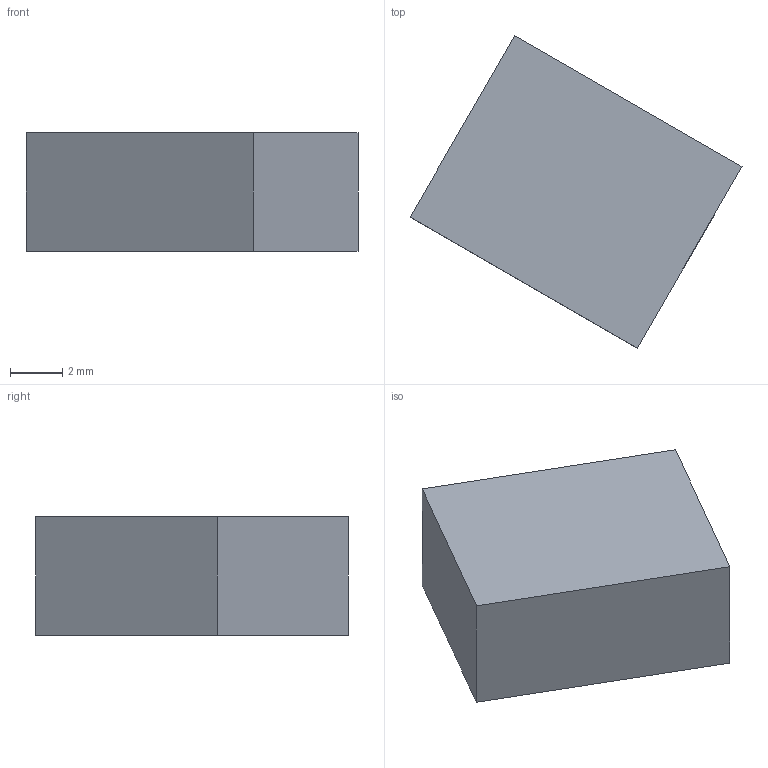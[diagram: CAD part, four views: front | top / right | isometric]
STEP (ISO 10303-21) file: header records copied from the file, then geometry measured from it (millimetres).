
FILE_DESCRIPTION(('Open CASCADE Model'),'2;1');
FILE_NAME('Open CASCADE Shape Model','2026-10-04T02:31:40',('Author'),( 'Open CASCADE'),'Open CASCADE STEP processor 8.0','Open CASCADE 8.0' ,'Unknown');
FILE_SCHEMA(('AUTOMOTIVE_DESIGN { 1 0 10303 214 1 1 1 1 }'));
Length unit declared in the file: millimetre
Products named in the file (1): Open CASCADE STEP translator 8.0 209
Bounding box: 12.66 x 11.93 x 4.5 mm (x, y, z)
Volume: 360 mm3; surface area: 322 mm2
Topology: 1 solids, 1 shells, 6 faces, 12 edges, 8 vertices
Faces by surface type: plane 6
Entity records: 322 total; most frequent: CARTESIAN_POINT 51, DIRECTION 50, LINE 36, VECTOR 36, ORIENTED_EDGE 24, PCURVE 24, DEFINITIONAL_REPRESENTATION 24, EDGE_CURVE 12
